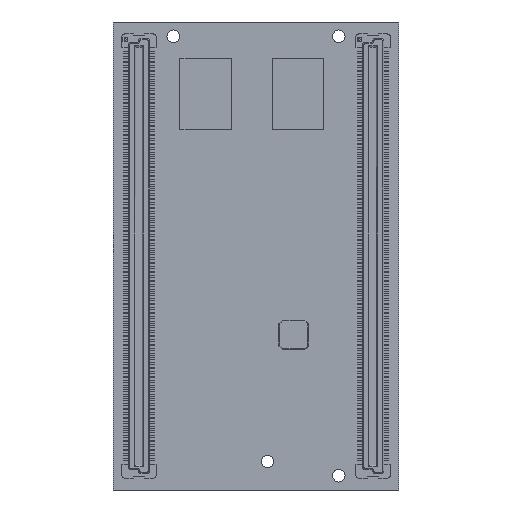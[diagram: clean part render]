
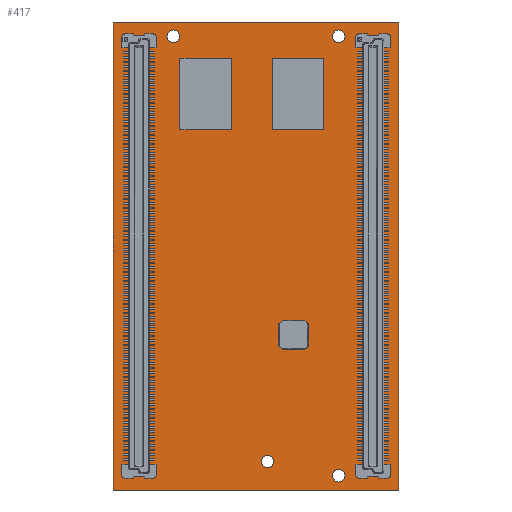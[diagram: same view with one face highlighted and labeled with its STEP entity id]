
A CAD part, front view. The second image highlights one B-rep face of the part: STEP entity #417.
In plain terms, the highlighted planar face has unit normal (0, -1, 0).
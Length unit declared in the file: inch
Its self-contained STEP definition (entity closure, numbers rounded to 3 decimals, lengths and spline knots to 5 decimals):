
#2=DIRECTION('',(-1.,0.,0.));
#3=VECTOR('',#2,1.969);
#4=CARTESIAN_POINT('',(0.98425,0.,-1.61385));
#5=LINE('',#4,#3);
#6=DIRECTION('',(0.,0.,1.));
#7=VECTOR('',#6,3.228);
#8=CARTESIAN_POINT('',(-0.98475,0.,-1.61385));
#9=LINE('',#8,#7);
#10=DIRECTION('',(1.,0.,0.));
#11=VECTOR('',#10,1.969);
#12=CARTESIAN_POINT('',(-0.98475,0.,1.61415));
#13=LINE('',#12,#11);
#14=DIRECTION('',(0.,0.,-1.));
#15=VECTOR('',#14,3.228);
#16=CARTESIAN_POINT('',(0.98425,0.,1.61415));
#17=LINE('',#16,#15);
#18=CARTESIAN_POINT('',(0.80715,0.,-1.49965));
#19=DIRECTION('',(0.,1.,0.));
#20=DIRECTION('',(1.,0.,0.));
#21=AXIS2_PLACEMENT_3D('',#18,#19,#20);
#23=CARTESIAN_POINT('',(0.80715,0.,-1.49965));
#24=DIRECTION('',(0.,1.,0.));
#25=DIRECTION('',(-1.,0.,0.));
#26=AXIS2_PLACEMENT_3D('',#23,#24,#25);
#28=CARTESIAN_POINT('',(0.57095,0.,-1.51545));
#29=DIRECTION('',(0.,1.,0.));
#30=DIRECTION('',(1.,0.,0.));
#31=AXIS2_PLACEMENT_3D('',#28,#29,#30);
#33=CARTESIAN_POINT('',(0.57095,0.,-1.51545));
#34=DIRECTION('',(0.,1.,0.));
#35=DIRECTION('',(-1.,0.,0.));
#36=AXIS2_PLACEMENT_3D('',#33,#34,#35);
#38=CARTESIAN_POINT('',(0.07875,0.,-1.41705));
#39=DIRECTION('',(0.,1.,0.));
#40=DIRECTION('',(1.,0.,0.));
#41=AXIS2_PLACEMENT_3D('',#38,#39,#40);
#43=CARTESIAN_POINT('',(0.07875,0.,-1.41705));
#44=DIRECTION('',(0.,1.,0.));
#45=DIRECTION('',(-1.,0.,0.));
#46=AXIS2_PLACEMENT_3D('',#43,#44,#45);
#48=CARTESIAN_POINT('',(-0.80755,0.,-1.49965));
#49=DIRECTION('',(0.,1.,0.));
#50=DIRECTION('',(1.,0.,0.));
#51=AXIS2_PLACEMENT_3D('',#48,#49,#50);
#53=CARTESIAN_POINT('',(-0.80755,0.,-1.49965));
#54=DIRECTION('',(0.,1.,0.));
#55=DIRECTION('',(-1.,0.,0.));
#56=AXIS2_PLACEMENT_3D('',#53,#54,#55);
#58=CARTESIAN_POINT('',(-0.80755,0.,1.50005));
#59=DIRECTION('',(0.,1.,0.));
#60=DIRECTION('',(1.,0.,0.));
#61=AXIS2_PLACEMENT_3D('',#58,#59,#60);
#63=CARTESIAN_POINT('',(-0.80755,0.,1.50005));
#64=DIRECTION('',(0.,1.,0.));
#65=DIRECTION('',(-1.,0.,0.));
#66=AXIS2_PLACEMENT_3D('',#63,#64,#65);
#68=CARTESIAN_POINT('',(-0.57135,0.,1.51575));
#69=DIRECTION('',(0.,1.,0.));
#70=DIRECTION('',(1.,0.,0.));
#71=AXIS2_PLACEMENT_3D('',#68,#69,#70);
#73=CARTESIAN_POINT('',(-0.57135,0.,1.51575));
#74=DIRECTION('',(0.,1.,0.));
#75=DIRECTION('',(-1.,0.,0.));
#76=AXIS2_PLACEMENT_3D('',#73,#74,#75);
#78=CARTESIAN_POINT('',(0.57095,0.,1.51575));
#79=DIRECTION('',(0.,1.,0.));
#80=DIRECTION('',(1.,0.,0.));
#81=AXIS2_PLACEMENT_3D('',#78,#79,#80);
#83=CARTESIAN_POINT('',(0.57095,0.,1.51575));
#84=DIRECTION('',(0.,1.,0.));
#85=DIRECTION('',(-1.,0.,0.));
#86=AXIS2_PLACEMENT_3D('',#83,#84,#85);
#88=CARTESIAN_POINT('',(0.80715,0.,1.50005));
#89=DIRECTION('',(0.,1.,0.));
#90=DIRECTION('',(1.,0.,0.));
#91=AXIS2_PLACEMENT_3D('',#88,#89,#90);
#93=CARTESIAN_POINT('',(0.80715,0.,1.50005));
#94=DIRECTION('',(0.,1.,0.));
#95=DIRECTION('',(-1.,0.,0.));
#96=AXIS2_PLACEMENT_3D('',#93,#94,#95);
#274=CARTESIAN_POINT('',(0.98425,0.,-1.61385));
#275=CARTESIAN_POINT('',(-0.98475,0.,-1.61385));
#276=VERTEX_POINT('',#274);
#277=VERTEX_POINT('',#275);
#278=CARTESIAN_POINT('',(-0.98475,0.,1.61415));
#279=VERTEX_POINT('',#278);
#280=CARTESIAN_POINT('',(0.98425,0.,1.61415));
#281=VERTEX_POINT('',#280);
#290=CARTESIAN_POINT('',(0.8229,0.,-1.49965));
#291=CARTESIAN_POINT('',(0.7914,0.,-1.49965));
#292=VERTEX_POINT('',#290);
#293=VERTEX_POINT('',#291);
#294=CARTESIAN_POINT('',(0.61425,0.,-1.51545));
#295=CARTESIAN_POINT('',(0.52765,0.,-1.51545));
#296=VERTEX_POINT('',#294);
#297=VERTEX_POINT('',#295);
#298=CARTESIAN_POINT('',(0.12205,0.,-1.41705));
#299=CARTESIAN_POINT('',(0.03545,0.,-1.41705));
#300=VERTEX_POINT('',#298);
#301=VERTEX_POINT('',#299);
#302=CARTESIAN_POINT('',(-0.7918,0.,-1.49965));
#303=CARTESIAN_POINT('',(-0.8233,0.,-1.49965));
#304=VERTEX_POINT('',#302);
#305=VERTEX_POINT('',#303);
#306=CARTESIAN_POINT('',(-0.78395,0.,1.50005));
#307=CARTESIAN_POINT('',(-0.83115,0.,1.50005));
#308=VERTEX_POINT('',#306);
#309=VERTEX_POINT('',#307);
#310=CARTESIAN_POINT('',(-0.52805,0.,1.51575));
#311=CARTESIAN_POINT('',(-0.61465,0.,1.51575));
#312=VERTEX_POINT('',#310);
#313=VERTEX_POINT('',#311);
#314=CARTESIAN_POINT('',(0.61425,0.,1.51575));
#315=CARTESIAN_POINT('',(0.52765,0.,1.51575));
#316=VERTEX_POINT('',#314);
#317=VERTEX_POINT('',#315);
#318=CARTESIAN_POINT('',(0.83075,0.,1.50005));
#319=CARTESIAN_POINT('',(0.78355,0.,1.50005));
#320=VERTEX_POINT('',#318);
#321=VERTEX_POINT('',#319);
#354=CARTESIAN_POINT('',(0.,0.,0.));
#355=DIRECTION('',(0.,1.,0.));
#356=DIRECTION('',(1.,0.,0.));
#357=AXIS2_PLACEMENT_3D('',#354,#355,#356);
#358=PLANE('',#357);
#360=ORIENTED_EDGE('',*,*,#359,.T.);
#362=ORIENTED_EDGE('',*,*,#361,.T.);
#364=ORIENTED_EDGE('',*,*,#363,.T.);
#366=ORIENTED_EDGE('',*,*,#365,.T.);
#367=EDGE_LOOP('',(#360,#362,#364,#366));
#368=FACE_OUTER_BOUND('',#367,.F.);
#370=ORIENTED_EDGE('',*,*,#369,.F.);
#372=ORIENTED_EDGE('',*,*,#371,.F.);
#373=EDGE_LOOP('',(#370,#372));
#374=FACE_BOUND('',#373,.F.);
#376=ORIENTED_EDGE('',*,*,#375,.F.);
#378=ORIENTED_EDGE('',*,*,#377,.F.);
#379=EDGE_LOOP('',(#376,#378));
#380=FACE_BOUND('',#379,.F.);
#382=ORIENTED_EDGE('',*,*,#381,.F.);
#384=ORIENTED_EDGE('',*,*,#383,.F.);
#385=EDGE_LOOP('',(#382,#384));
#386=FACE_BOUND('',#385,.F.);
#388=ORIENTED_EDGE('',*,*,#387,.F.);
#390=ORIENTED_EDGE('',*,*,#389,.F.);
#391=EDGE_LOOP('',(#388,#390));
#392=FACE_BOUND('',#391,.F.);
#394=ORIENTED_EDGE('',*,*,#393,.F.);
#396=ORIENTED_EDGE('',*,*,#395,.F.);
#397=EDGE_LOOP('',(#394,#396));
#398=FACE_BOUND('',#397,.F.);
#400=ORIENTED_EDGE('',*,*,#399,.F.);
#402=ORIENTED_EDGE('',*,*,#401,.F.);
#403=EDGE_LOOP('',(#400,#402));
#404=FACE_BOUND('',#403,.F.);
#406=ORIENTED_EDGE('',*,*,#405,.F.);
#408=ORIENTED_EDGE('',*,*,#407,.F.);
#409=EDGE_LOOP('',(#406,#408));
#410=FACE_BOUND('',#409,.F.);
#412=ORIENTED_EDGE('',*,*,#411,.F.);
#414=ORIENTED_EDGE('',*,*,#413,.F.);
#415=EDGE_LOOP('',(#412,#414));
#416=FACE_BOUND('',#415,.F.);
#22=CIRCLE('',#21,0.01575);
#27=CIRCLE('',#26,0.01575);
#32=CIRCLE('',#31,0.0433);
#37=CIRCLE('',#36,0.0433);
#42=CIRCLE('',#41,0.0433);
#47=CIRCLE('',#46,0.0433);
#52=CIRCLE('',#51,0.01575);
#57=CIRCLE('',#56,0.01575);
#62=CIRCLE('',#61,0.0236);
#67=CIRCLE('',#66,0.0236);
#72=CIRCLE('',#71,0.0433);
#77=CIRCLE('',#76,0.0433);
#82=CIRCLE('',#81,0.0433);
#87=CIRCLE('',#86,0.0433);
#92=CIRCLE('',#91,0.0236);
#97=CIRCLE('',#96,0.0236);
#359=EDGE_CURVE('',#276,#277,#5,.T.);
#361=EDGE_CURVE('',#277,#279,#9,.T.);
#363=EDGE_CURVE('',#279,#281,#13,.T.);
#365=EDGE_CURVE('',#281,#276,#17,.T.);
#369=EDGE_CURVE('',#292,#293,#22,.T.);
#371=EDGE_CURVE('',#293,#292,#27,.T.);
#375=EDGE_CURVE('',#296,#297,#32,.T.);
#377=EDGE_CURVE('',#297,#296,#37,.T.);
#381=EDGE_CURVE('',#300,#301,#42,.T.);
#383=EDGE_CURVE('',#301,#300,#47,.T.);
#387=EDGE_CURVE('',#304,#305,#52,.T.);
#389=EDGE_CURVE('',#305,#304,#57,.T.);
#393=EDGE_CURVE('',#308,#309,#62,.T.);
#395=EDGE_CURVE('',#309,#308,#67,.T.);
#399=EDGE_CURVE('',#312,#313,#72,.T.);
#401=EDGE_CURVE('',#313,#312,#77,.T.);
#405=EDGE_CURVE('',#316,#317,#82,.T.);
#407=EDGE_CURVE('',#317,#316,#87,.T.);
#411=EDGE_CURVE('',#320,#321,#92,.T.);
#413=EDGE_CURVE('',#321,#320,#97,.T.);
#417=ADVANCED_FACE('',(#368,#374,#380,#386,#392,#398,#404,#410,#416),#358,.F.);
